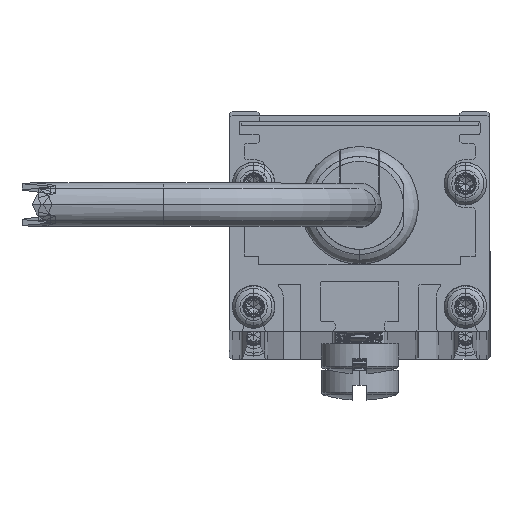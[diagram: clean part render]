
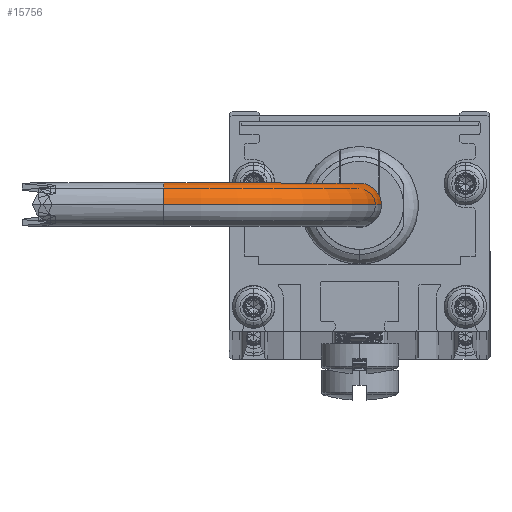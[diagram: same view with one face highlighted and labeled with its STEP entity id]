
A CAD part, top view. The second image highlights one B-rep face of the part: STEP entity #15756.
In plain terms, the highlighted toroidal (fillet/blend) face has major radius 25.4 mm and minor radius 2.845 mm.
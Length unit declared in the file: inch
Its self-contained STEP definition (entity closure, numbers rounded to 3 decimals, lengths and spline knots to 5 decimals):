
#433 = DIRECTION ( 'NONE',  ( 0., 0., -1. ) ) ;
#577 = ORIENTED_EDGE ( 'NONE', *, *, #12313, .F. ) ;
#705 = CARTESIAN_POINT ( 'NONE',  ( 1., 0., -1. ) ) ;
#857 = AXIS2_PLACEMENT_3D ( 'NONE', #705, #3629, #6513 ) ;
#1839 = AXIS2_PLACEMENT_3D ( 'NONE', #12418, #13700, #12279 ) ;
#2384 = EDGE_CURVE ( 'NONE', #5035, #4468, #18169, .T. ) ;
#2650 = CARTESIAN_POINT ( 'NONE',  ( 0.112, 0., -1. ) ) ;
#3013 = VERTEX_POINT ( 'NONE', #6558 ) ;
#3629 = DIRECTION ( 'NONE',  ( 0., -1., 0. ) ) ;
#4166 = CIRCLE ( 'NONE', #6250, 0.112 ) ;
#4468 = VERTEX_POINT ( 'NONE', #12868 ) ;
#5035 = VERTEX_POINT ( 'NONE', #6314 ) ;
#5427 = VERTEX_POINT ( 'NONE', #2650 ) ;
#6250 = AXIS2_PLACEMENT_3D ( 'NONE', #15462, #15330, #10935 ) ;
#6314 = CARTESIAN_POINT ( 'NONE',  ( -0.112, 0., -1. ) ) ;
#6513 = DIRECTION ( 'NONE',  ( 1., 0., 0. ) ) ;
#6558 = CARTESIAN_POINT ( 'NONE',  ( 1., 0., -1.888 ) ) ;
#6603 = DIRECTION ( 'NONE',  ( -1., 0., 0. ) ) ;
#8673 = ORIENTED_EDGE ( 'NONE', *, *, #2384, .F. ) ;
#9127 = ORIENTED_EDGE ( 'NONE', *, *, #11412, .T. ) ;
#10498 = AXIS2_PLACEMENT_3D ( 'NONE', #15304, #6603, #15926 ) ;
#10923 = CIRCLE ( 'NONE', #10498, 0.112 ) ;
#10935 = DIRECTION ( 'NONE',  ( 1., 0., 0. ) ) ;
#11412 = EDGE_CURVE ( 'NONE', #5427, #3013, #15909, .T. ) ;
#11662 = TOROIDAL_SURFACE ( 'NONE', #17024, 1., 0.112 ) ;
#12064 = DIRECTION ( 'NONE',  ( 0., -1., 0. ) ) ;
#12279 = DIRECTION ( 'NONE',  ( 1., 0., 0. ) ) ;
#12284 = EDGE_CURVE ( 'NONE', #3013, #4468, #10923, .T. ) ;
#12313 = EDGE_CURVE ( 'NONE', #5427, #5035, #4166, .T. ) ;
#12418 = CARTESIAN_POINT ( 'NONE',  ( 1., 0., -1. ) ) ;
#12868 = CARTESIAN_POINT ( 'NONE',  ( 1., 0., -2.112 ) ) ;
#13310 = ORIENTED_EDGE ( 'NONE', *, *, #12284, .T. ) ;
#13513 = FACE_OUTER_BOUND ( 'NONE', #15037, .T. ) ;
#13700 = DIRECTION ( 'NONE',  ( 0., -1., 0. ) ) ;
#15037 = EDGE_LOOP ( 'NONE', ( #8673, #577, #9127, #13310 ) ) ;
#15304 = CARTESIAN_POINT ( 'NONE',  ( 1., 0., -2. ) ) ;
#15330 = DIRECTION ( 'NONE',  ( 0., 0., 1. ) ) ;
#15462 = CARTESIAN_POINT ( 'NONE',  ( 0., 0., -1. ) ) ;
#15756 = ADVANCED_FACE ( 'NONE', ( #13513 ), #11662, .T. ) ;
#15909 = CIRCLE ( 'NONE', #1839, 0.888 ) ;
#15926 = DIRECTION ( 'NONE',  ( 0., 0., 1. ) ) ;
#17024 = AXIS2_PLACEMENT_3D ( 'NONE', #17775, #12064, #433 ) ;
#17775 = CARTESIAN_POINT ( 'NONE',  ( 1., 0., -1. ) ) ;
#18169 = CIRCLE ( 'NONE', #857, 1.112 ) ;
